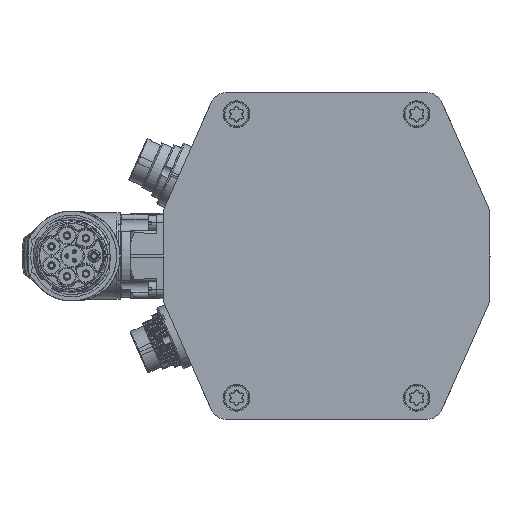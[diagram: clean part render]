
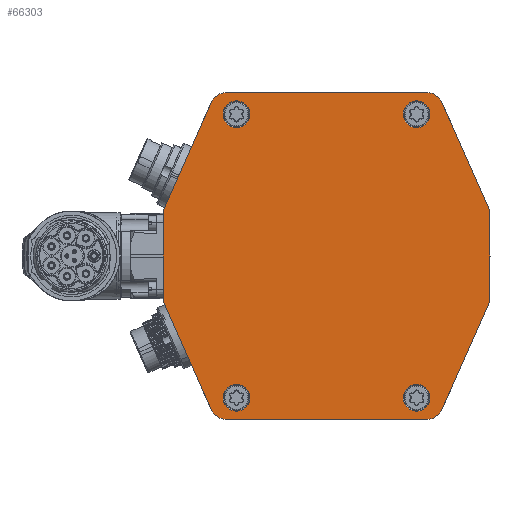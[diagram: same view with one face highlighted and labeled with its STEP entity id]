
A CAD part, left-side view. The second image highlights one B-rep face of the part: STEP entity #66303.
In plain terms, the highlighted planar face has unit normal (-1, 0, 0).
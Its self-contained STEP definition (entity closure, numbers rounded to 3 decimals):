
#4429=CARTESIAN_POINT('',(-275.,-30.,-44.));
#4430=DIRECTION('',(-1.,0.,0.));
#4431=DIRECTION('',(0.,0.,-1.));
#4432=AXIS2_PLACEMENT_3D('',#4429,#4430,#4431);
#4434=DIRECTION('',(0.,-1.,0.));
#4435=VECTOR('',#4434,60.);
#4436=CARTESIAN_POINT('',(-275.,30.,-49.));
#4437=LINE('',#4436,#4435);
#4438=CARTESIAN_POINT('',(-275.,30.,-44.));
#4439=DIRECTION('',(-1.,0.,0.));
#4440=DIRECTION('',(0.,0.914,-0.405));
#4441=AXIS2_PLACEMENT_3D('',#4438,#4439,#4440);
#4443=DIRECTION('',(0.,-0.405,-0.914));
#4444=VECTOR('',#4443,35.228);
#4445=CARTESIAN_POINT('',(-275.,48.829,-13.809));
#4446=LINE('',#4445,#4444);
#4447=CARTESIAN_POINT('',(-275.,47.,-13.));
#4448=DIRECTION('',(-1.,0.,0.));
#4449=DIRECTION('',(0.,1.,0.));
#4450=AXIS2_PLACEMENT_3D('',#4447,#4448,#4449);
#4452=DIRECTION('',(0.,0.,-1.));
#4453=VECTOR('',#4452,26.);
#4454=CARTESIAN_POINT('',(-275.,49.,13.));
#4455=LINE('',#4454,#4453);
#4456=CARTESIAN_POINT('',(-275.,47.,13.));
#4457=DIRECTION('',(-1.,0.,0.));
#4458=DIRECTION('',(0.,0.914,0.405));
#4459=AXIS2_PLACEMENT_3D('',#4456,#4457,#4458);
#4461=DIRECTION('',(0.,0.405,-0.914));
#4462=VECTOR('',#4461,35.228);
#4463=CARTESIAN_POINT('',(-275.,34.572,46.023));
#4464=LINE('',#4463,#4462);
#4465=CARTESIAN_POINT('',(-275.,30.,44.));
#4466=DIRECTION('',(-1.,0.,0.));
#4467=DIRECTION('',(0.,0.,1.));
#4468=AXIS2_PLACEMENT_3D('',#4465,#4466,#4467);
#4470=DIRECTION('',(0.,1.,0.));
#4471=VECTOR('',#4470,60.);
#4472=CARTESIAN_POINT('',(-275.,-30.,49.));
#4473=LINE('',#4472,#4471);
#4474=CARTESIAN_POINT('',(-275.,-30.,44.));
#4475=DIRECTION('',(-1.,0.,0.));
#4476=DIRECTION('',(0.,-0.914,0.405));
#4477=AXIS2_PLACEMENT_3D('',#4474,#4475,#4476);
#4479=DIRECTION('',(0.,0.405,0.914));
#4480=VECTOR('',#4479,35.228);
#4481=CARTESIAN_POINT('',(-275.,-48.829,13.809));
#4482=LINE('',#4481,#4480);
#4483=CARTESIAN_POINT('',(-275.,-47.,13.));
#4484=DIRECTION('',(-1.,0.,0.));
#4485=DIRECTION('',(0.,-1.,0.));
#4486=AXIS2_PLACEMENT_3D('',#4483,#4484,#4485);
#4488=DIRECTION('',(0.,0.,1.));
#4489=VECTOR('',#4488,26.);
#4490=CARTESIAN_POINT('',(-275.,-49.,-13.));
#4491=LINE('',#4490,#4489);
#4492=CARTESIAN_POINT('',(-275.,-47.,-13.));
#4493=DIRECTION('',(-1.,0.,0.));
#4494=DIRECTION('',(0.,-0.914,-0.405));
#4495=AXIS2_PLACEMENT_3D('',#4492,#4493,#4494);
#4497=DIRECTION('',(0.,-0.405,0.914));
#4498=VECTOR('',#4497,35.228);
#4499=CARTESIAN_POINT('',(-275.,-34.572,-46.023));
#4500=LINE('',#4499,#4498);
#4501=CARTESIAN_POINT('',(-275.,27.,-42.5));
#4502=DIRECTION('',(-1.,0.,0.));
#4503=DIRECTION('',(0.,0.,-1.));
#4504=AXIS2_PLACEMENT_3D('',#4501,#4502,#4503);
#4506=CARTESIAN_POINT('',(-275.,27.,-42.5));
#4507=DIRECTION('',(-1.,0.,0.));
#4508=DIRECTION('',(0.,0.,1.));
#4509=AXIS2_PLACEMENT_3D('',#4506,#4507,#4508);
#4511=CARTESIAN_POINT('',(-275.,27.,42.5));
#4512=DIRECTION('',(1.,0.,0.));
#4513=DIRECTION('',(0.,0.,1.));
#4514=AXIS2_PLACEMENT_3D('',#4511,#4512,#4513);
#4516=CARTESIAN_POINT('',(-275.,27.,42.5));
#4517=DIRECTION('',(1.,0.,0.));
#4518=DIRECTION('',(0.,0.,-1.));
#4519=AXIS2_PLACEMENT_3D('',#4516,#4517,#4518);
#4521=CARTESIAN_POINT('',(-275.,-27.,-42.5));
#4522=DIRECTION('',(1.,0.,0.));
#4523=DIRECTION('',(0.,0.,-1.));
#4524=AXIS2_PLACEMENT_3D('',#4521,#4522,#4523);
#4526=CARTESIAN_POINT('',(-275.,-27.,-42.5));
#4527=DIRECTION('',(1.,0.,0.));
#4528=DIRECTION('',(0.,0.,1.));
#4529=AXIS2_PLACEMENT_3D('',#4526,#4527,#4528);
#4531=CARTESIAN_POINT('',(-275.,-27.,42.5));
#4532=DIRECTION('',(-1.,0.,0.));
#4533=DIRECTION('',(0.,0.,1.));
#4534=AXIS2_PLACEMENT_3D('',#4531,#4532,#4533);
#4536=CARTESIAN_POINT('',(-275.,-27.,42.5));
#4537=DIRECTION('',(-1.,0.,0.));
#4538=DIRECTION('',(0.,0.,-1.));
#4539=AXIS2_PLACEMENT_3D('',#4536,#4537,#4538);
#60174=CARTESIAN_POINT('',(-275.,-30.,-49.));
#60175=CARTESIAN_POINT('',(-275.,-34.572,-46.023));
#60176=VERTEX_POINT('',#60174);
#60177=VERTEX_POINT('',#60175);
#60178=CARTESIAN_POINT('',(-275.,-48.829,-13.809));
#60179=VERTEX_POINT('',#60178);
#60180=CARTESIAN_POINT('',(-275.,-49.,-13.));
#60181=VERTEX_POINT('',#60180);
#60182=CARTESIAN_POINT('',(-275.,-49.,13.));
#60183=VERTEX_POINT('',#60182);
#60184=CARTESIAN_POINT('',(-275.,-48.829,13.809));
#60185=VERTEX_POINT('',#60184);
#60186=CARTESIAN_POINT('',(-275.,-34.572,46.023));
#60187=VERTEX_POINT('',#60186);
#60188=CARTESIAN_POINT('',(-275.,-30.,49.));
#60189=VERTEX_POINT('',#60188);
#60190=CARTESIAN_POINT('',(-275.,30.,49.));
#60191=VERTEX_POINT('',#60190);
#60192=CARTESIAN_POINT('',(-275.,34.572,46.023));
#60193=VERTEX_POINT('',#60192);
#60194=CARTESIAN_POINT('',(-275.,48.829,13.809));
#60195=VERTEX_POINT('',#60194);
#60196=CARTESIAN_POINT('',(-275.,49.,13.));
#60197=VERTEX_POINT('',#60196);
#60198=CARTESIAN_POINT('',(-275.,49.,-13.));
#60199=VERTEX_POINT('',#60198);
#60200=CARTESIAN_POINT('',(-275.,48.829,-13.809));
#60201=VERTEX_POINT('',#60200);
#60202=CARTESIAN_POINT('',(-275.,34.572,-46.023));
#60203=VERTEX_POINT('',#60202);
#60204=CARTESIAN_POINT('',(-275.,30.,-49.));
#60205=VERTEX_POINT('',#60204);
#60218=CARTESIAN_POINT('',(-275.,27.,-46.5));
#60219=CARTESIAN_POINT('',(-275.,27.,-38.5));
#60220=VERTEX_POINT('',#60218);
#60221=VERTEX_POINT('',#60219);
#60226=CARTESIAN_POINT('',(-275.,27.,46.5));
#60227=VERTEX_POINT('',#60226);
#60228=CARTESIAN_POINT('',(-275.,27.,38.5));
#60229=VERTEX_POINT('',#60228);
#60234=CARTESIAN_POINT('',(-275.,-27.,-46.5));
#60235=VERTEX_POINT('',#60234);
#60236=CARTESIAN_POINT('',(-275.,-27.,-38.5));
#60237=VERTEX_POINT('',#60236);
#60242=CARTESIAN_POINT('',(-275.,-27.,46.5));
#60243=VERTEX_POINT('',#60242);
#60244=CARTESIAN_POINT('',(-275.,-27.,38.5));
#60245=VERTEX_POINT('',#60244);
#66256=CARTESIAN_POINT('',(-275.,0.,0.));
#66257=DIRECTION('',(-1.,0.,0.));
#66258=DIRECTION('',(0.,1.,0.));
#66259=AXIS2_PLACEMENT_3D('',#66256,#66257,#66258);
#66260=PLANE('',#66259);
#66261=ORIENTED_EDGE('',*,*,#66040,.F.);
#66262=ORIENTED_EDGE('',*,*,#66055,.F.);
#66263=ORIENTED_EDGE('',*,*,#66069,.F.);
#66264=ORIENTED_EDGE('',*,*,#66083,.F.);
#66265=ORIENTED_EDGE('',*,*,#66097,.F.);
#66266=ORIENTED_EDGE('',*,*,#66111,.F.);
#66267=ORIENTED_EDGE('',*,*,#66125,.F.);
#66268=ORIENTED_EDGE('',*,*,#66139,.F.);
#66269=ORIENTED_EDGE('',*,*,#66153,.F.);
#66270=ORIENTED_EDGE('',*,*,#66167,.F.);
#66271=ORIENTED_EDGE('',*,*,#66181,.F.);
#66272=ORIENTED_EDGE('',*,*,#66195,.F.);
#66273=ORIENTED_EDGE('',*,*,#66209,.F.);
#66274=ORIENTED_EDGE('',*,*,#66223,.F.);
#66275=ORIENTED_EDGE('',*,*,#66237,.F.);
#66276=ORIENTED_EDGE('',*,*,#66250,.F.);
#66277=EDGE_LOOP('',(#66261,#66262,#66263,#66264,#66265,#66266,#66267,#66268,
#66269,#66270,#66271,#66272,#66273,#66274,#66275,#66276));
#66278=FACE_OUTER_BOUND('',#66277,.F.);
#66280=ORIENTED_EDGE('',*,*,#66279,.T.);
#66282=ORIENTED_EDGE('',*,*,#66281,.T.);
#66283=EDGE_LOOP('',(#66280,#66282));
#66284=FACE_BOUND('',#66283,.F.);
#66286=ORIENTED_EDGE('',*,*,#66285,.F.);
#66288=ORIENTED_EDGE('',*,*,#66287,.F.);
#66289=EDGE_LOOP('',(#66286,#66288));
#66290=FACE_BOUND('',#66289,.F.);
#66292=ORIENTED_EDGE('',*,*,#66291,.F.);
#66294=ORIENTED_EDGE('',*,*,#66293,.F.);
#66295=EDGE_LOOP('',(#66292,#66294));
#66296=FACE_BOUND('',#66295,.F.);
#66298=ORIENTED_EDGE('',*,*,#66297,.T.);
#66300=ORIENTED_EDGE('',*,*,#66299,.T.);
#66301=EDGE_LOOP('',(#66298,#66300));
#66302=FACE_BOUND('',#66301,.F.);
#66303=ADVANCED_FACE('',(#66278,#66284,#66290,#66296,#66302),#66260,.T.);
#4433=CIRCLE('',#4432,5.);
#4442=CIRCLE('',#4441,5.);
#4451=CIRCLE('',#4450,2.);
#4460=CIRCLE('',#4459,2.);
#4469=CIRCLE('',#4468,5.);
#4478=CIRCLE('',#4477,5.);
#4487=CIRCLE('',#4486,2.);
#4496=CIRCLE('',#4495,2.);
#4505=CIRCLE('',#4504,4.);
#4510=CIRCLE('',#4509,4.);
#4515=CIRCLE('',#4514,4.);
#4520=CIRCLE('',#4519,4.);
#4525=CIRCLE('',#4524,4.);
#4530=CIRCLE('',#4529,4.);
#4535=CIRCLE('',#4534,4.);
#4540=CIRCLE('',#4539,4.);
#66040=EDGE_CURVE('',#60176,#60177,#4433,.T.);
#66055=EDGE_CURVE('',#60205,#60176,#4437,.T.);
#66069=EDGE_CURVE('',#60203,#60205,#4442,.T.);
#66083=EDGE_CURVE('',#60201,#60203,#4446,.T.);
#66097=EDGE_CURVE('',#60199,#60201,#4451,.T.);
#66111=EDGE_CURVE('',#60197,#60199,#4455,.T.);
#66125=EDGE_CURVE('',#60195,#60197,#4460,.T.);
#66139=EDGE_CURVE('',#60193,#60195,#4464,.T.);
#66153=EDGE_CURVE('',#60191,#60193,#4469,.T.);
#66167=EDGE_CURVE('',#60189,#60191,#4473,.T.);
#66181=EDGE_CURVE('',#60187,#60189,#4478,.T.);
#66195=EDGE_CURVE('',#60185,#60187,#4482,.T.);
#66209=EDGE_CURVE('',#60183,#60185,#4487,.T.);
#66223=EDGE_CURVE('',#60181,#60183,#4491,.T.);
#66237=EDGE_CURVE('',#60179,#60181,#4496,.T.);
#66250=EDGE_CURVE('',#60177,#60179,#4500,.T.);
#66279=EDGE_CURVE('',#60220,#60221,#4505,.T.);
#66281=EDGE_CURVE('',#60221,#60220,#4510,.T.);
#66285=EDGE_CURVE('',#60227,#60229,#4515,.T.);
#66287=EDGE_CURVE('',#60229,#60227,#4520,.T.);
#66291=EDGE_CURVE('',#60235,#60237,#4525,.T.);
#66293=EDGE_CURVE('',#60237,#60235,#4530,.T.);
#66297=EDGE_CURVE('',#60243,#60245,#4535,.T.);
#66299=EDGE_CURVE('',#60245,#60243,#4540,.T.);
